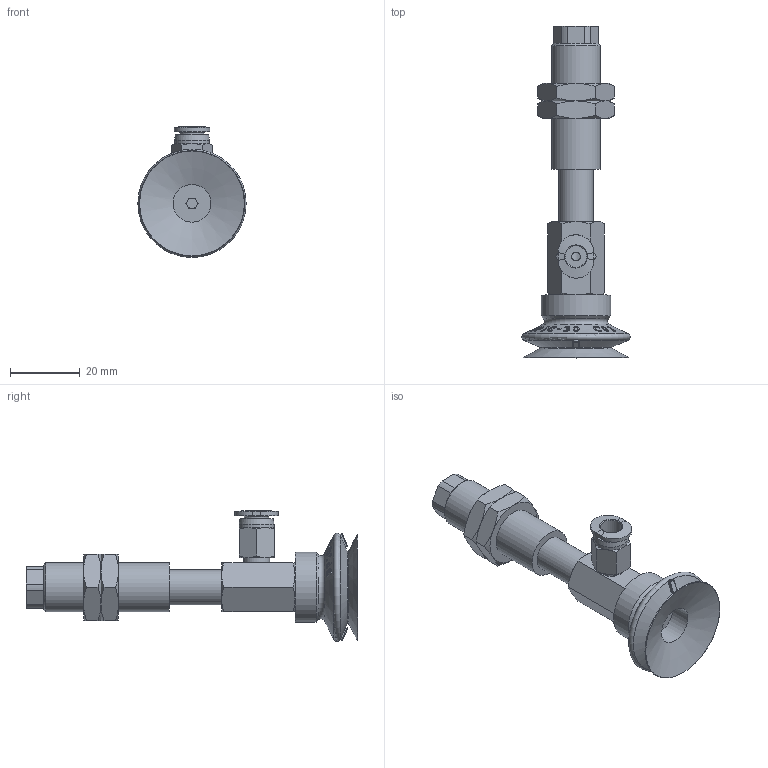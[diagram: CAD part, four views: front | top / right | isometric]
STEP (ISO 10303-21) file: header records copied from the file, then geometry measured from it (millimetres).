
FILE_DESCRIPTION(('STEP AP214'),'1');
FILE_NAME('-O.stp','2026-01-21T05:58:00',(' '),(' '),'Spatial InterOp 3D',' ',' ');
FILE_SCHEMA(('AUTOMOTIVE_DESIGN { 1 0 10303 214 1 1 1 1 }'));
Length unit declared in the file: millimetre
Products named in the file (8): BNABPJYS-30-15-※-O; PC-C_06-M5; BPJG-30-※; Adapter-30-NAPJ; CONNECTOR_S-30-15; NUT-NAPJ-30-15-s; NAPJYS-30-15-FBODY; NAPJYS-30-15-MBODY
Assembly tree (8 placements, depth 2):
  BNABPJYS-30-15-※-O
    PC-C_06-M5
    BPJG-30-※
    Adapter-30-NAPJ
    CONNECTOR_S-30-15
    NUT-NAPJ-30-15-s  x2
    NAPJYS-30-15-FBODY
    NAPJYS-30-15-MBODY
Bounding box: 30.99 x 95 x 37.48 mm (x, y, z)
Volume: 17992.2 mm3; surface area: 14006.2 mm2
Topology: 7 solids, 10 shells, 833 faces, 2269 edges, 1484 vertices
Faces by surface type: plane 692, cone 86, cylinder 39, torus 9, bspline 4, revolution 3
Full cylindrical faces by diameter (mm): 3 x2, 4 x2, 4.134 x2, 4.917 x1, 5 x2, 5.8 x1, 6 x1, 7 x1, 7.4 x1, 8.2 x1, 10 x3, 10.8 x1, 11 x1, 13.188 x2, 14 x1, 20 x1
Entity records: 33177 total; most frequent: CARTESIAN_POINT 8335, ORIENTED_EDGE 4328, DIRECTION 2822, EDGE_CURVE 2166, VERTEX_POINT 1449, B_SPLINE_CURVE_WITH_KNOTS 1092, AXIS2_PLACEMENT_3D 955, LINE 909
